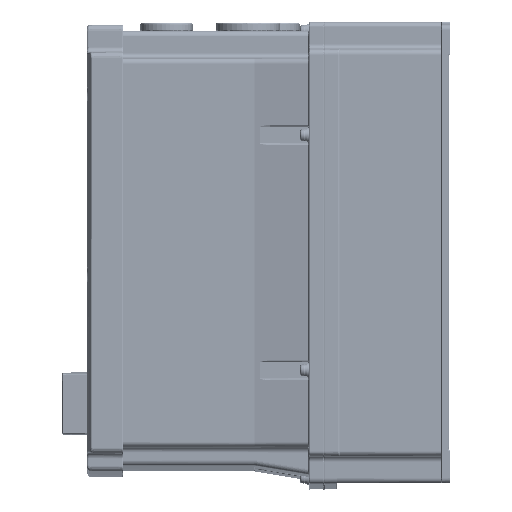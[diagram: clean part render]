
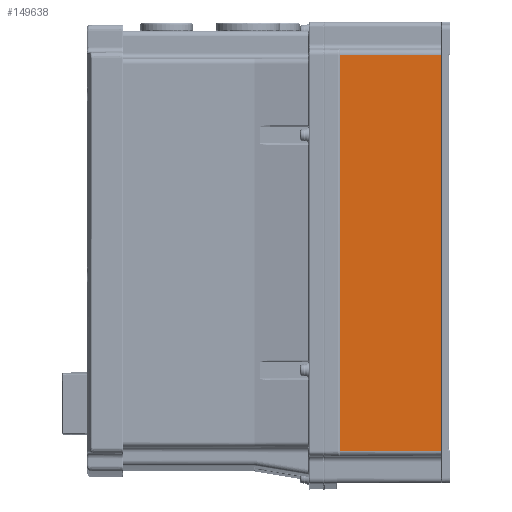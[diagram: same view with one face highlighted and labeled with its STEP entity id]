
A CAD part, left-side view. The second image highlights one B-rep face of the part: STEP entity #149638.
In plain terms, the highlighted planar face has unit normal (-1, 0, 0).
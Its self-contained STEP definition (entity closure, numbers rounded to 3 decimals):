
#7821 = LINE ( 'NONE', #278133, #7877 ) ;
#7831 = VECTOR ( 'NONE', #277860, 1000. ) ;
#7849 = LINE ( 'NONE', #277853, #7831 ) ;
#7877 = VECTOR ( 'NONE', #278188, 1000. ) ;
#24853 = EDGE_LOOP ( 'NONE', ( #248237, #248269, #248352, #248384 ) ) ;
#64918 = CARTESIAN_POINT ( 'NONE',  ( -109., -9.207, -109.5 ) ) ;
#64975 = CARTESIAN_POINT ( 'NONE',  ( -109., -64.5, 109.5 ) ) ;
#65057 = CARTESIAN_POINT ( 'NONE',  ( -109., -9.207, 109.5 ) ) ;
#65084 = CARTESIAN_POINT ( 'NONE',  ( -109., -64.5, -109.5 ) ) ;
#149638 = ADVANCED_FACE ( 'NONE', ( #188389 ), #266843, .F. ) ;
#151593 = AXIS2_PLACEMENT_3D ( 'NONE', #266694, #266701, #266845 ) ;
#155823 = VERTEX_POINT ( 'NONE', #64918 ) ;
#155876 = VERTEX_POINT ( 'NONE', #64975 ) ;
#155892 = VERTEX_POINT ( 'NONE', #65084 ) ;
#156148 = VERTEX_POINT ( 'NONE', #65057 ) ;
#188389 = FACE_OUTER_BOUND ( 'NONE', #24853, .T. ) ;
#214056 = EDGE_CURVE ( 'NONE', #155823, #156148, #7849, .T. ) ;
#214095 = EDGE_CURVE ( 'NONE', #155876, #155892, #7821, .T. ) ;
#216786 = EDGE_CURVE ( 'NONE', #155892, #155823, #286459, .T. ) ;
#217030 = EDGE_CURVE ( 'NONE', #156148, #155876, #286623, .T. ) ;
#223975 = CARTESIAN_POINT ( 'NONE',  ( -109., -177.547, -109.5 ) ) ;
#223993 = DIRECTION ( 'NONE',  ( 0., 1., 0. ) ) ;
#224442 = DIRECTION ( 'NONE',  ( 0., -1., 0. ) ) ;
#224472 = CARTESIAN_POINT ( 'NONE',  ( -109., 120.047, 109.5 ) ) ;
#248237 = ORIENTED_EDGE ( 'NONE', *, *, #214095, .F. ) ;
#248269 = ORIENTED_EDGE ( 'NONE', *, *, #217030, .F. ) ;
#248352 = ORIENTED_EDGE ( 'NONE', *, *, #214056, .F. ) ;
#248384 = ORIENTED_EDGE ( 'NONE', *, *, #216786, .F. ) ;
#266694 = CARTESIAN_POINT ( 'NONE',  ( -109., -65., 127.5 ) ) ;
#266701 = DIRECTION ( 'NONE',  ( 1., 0., 0. ) ) ;
#266843 = PLANE ( 'NONE',  #151593 ) ;
#266845 = DIRECTION ( 'NONE',  ( 0., 0., -1. ) ) ;
#277853 = CARTESIAN_POINT ( 'NONE',  ( -109., -9.207, 127.5 ) ) ;
#277860 = DIRECTION ( 'NONE',  ( 0., 0., 1. ) ) ;
#278133 = CARTESIAN_POINT ( 'NONE',  ( -109., -64.5, 127.5 ) ) ;
#278188 = DIRECTION ( 'NONE',  ( 0., 0., -1. ) ) ;
#286459 = LINE ( 'NONE', #223975, #286486 ) ;
#286486 = VECTOR ( 'NONE', #223993, 1000. ) ;
#286623 = LINE ( 'NONE', #224472, #286626 ) ;
#286626 = VECTOR ( 'NONE', #224442, 1000. ) ;
